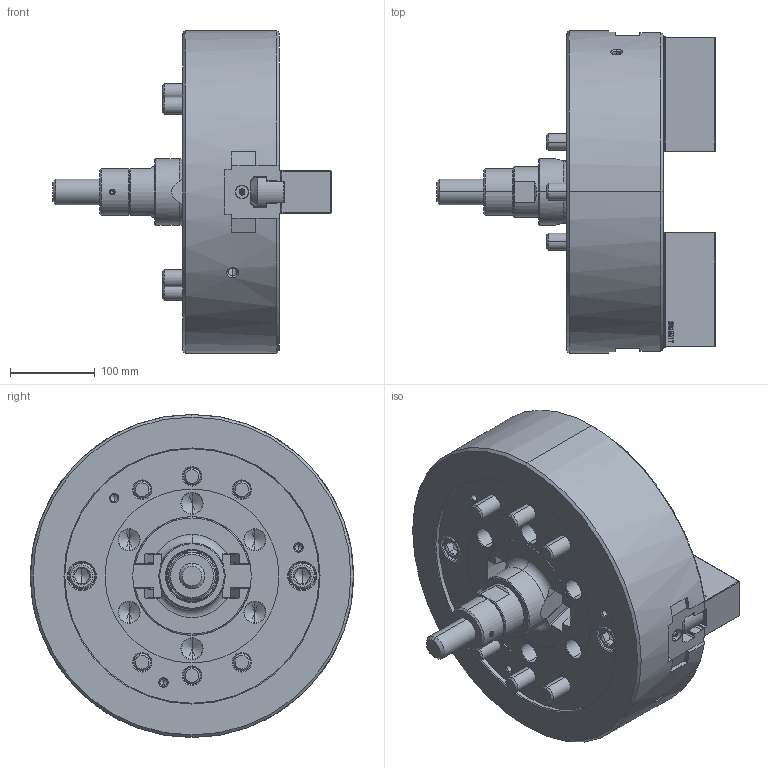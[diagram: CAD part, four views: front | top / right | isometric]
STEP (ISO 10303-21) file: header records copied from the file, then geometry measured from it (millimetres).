
FILE_DESCRIPTION (( 'STEP AP214' ), '1' );
FILE_NAME ('DT1_NT15_OUTSIDE_VIEW_OC.STEP', '2026-03-23T23:35:20', ( '' ), ( '' ), 'SwSTEP 2.0', 'SolidWorks 2022', '' );
FILE_SCHEMA (( 'AUTOMOTIVE_DESIGN' ));
Length unit declared in the file: millimetre
Products named in the file (11): DT1_NT15_OUTSIDE_VIEW_OC; DT1_NT15_M20x55^DT1_NT15; Copy of 61P321208^DT1_NT15; DT1_NT15_DRAWSCREW^DT1_NT15; DT1_NT15_DN^DT1_NT15; DT1_NT15_TNUT^DT1_NT15; DT1_NT15_BASE^DT1_NT15; DT1_NT15_M20x115^DT1_NT15; DT1_NT15_COVER^DT1_NT15; DT1_NT15_M6x12^DT1_NT15; DT1_NT15_SOFTJAW^DT1_NT15
Assembly tree (25 placements, depth 2):
  DT1_NT15_OUTSIDE_VIEW_OC
    DT1_NT15_SOFTJAW^DT1_NT15  x2
    DT1_NT15_TNUT^DT1_NT15  x4
    DT1_NT15_COVER^DT1_NT15
    DT1_NT15_DRAWSCREW^DT1_NT15
    Copy of 61P321208^DT1_NT15
    DT1_NT15_DN^DT1_NT15
    DT1_NT15_BASE^DT1_NT15
    DT1_NT15_M6x12^DT1_NT15  x4
    DT1_NT15_M20x55^DT1_NT15  x4
    DT1_NT15_M20x115^DT1_NT15  x6
Bounding box: 328 x 381 x 381 mm (x, y, z)
Volume: 13190693 mm3; surface area: 875348.2 mm2
Topology: 25 solids, 25 shells, 4885 faces, 13925 edges, 9115 vertices
Faces by surface type: plane 2953, cylinder 1324, cone 385, bspline 179, torus 40, sphere 4
Entity records: 120921 total; most frequent: CARTESIAN_POINT 33255, ORIENTED_EDGE 20098, DIRECTION 15620, EDGE_CURVE 10049, LINE 7240, VECTOR 7240, VERTEX_POINT 6600, AXIS2_PLACEMENT_3D 4190
